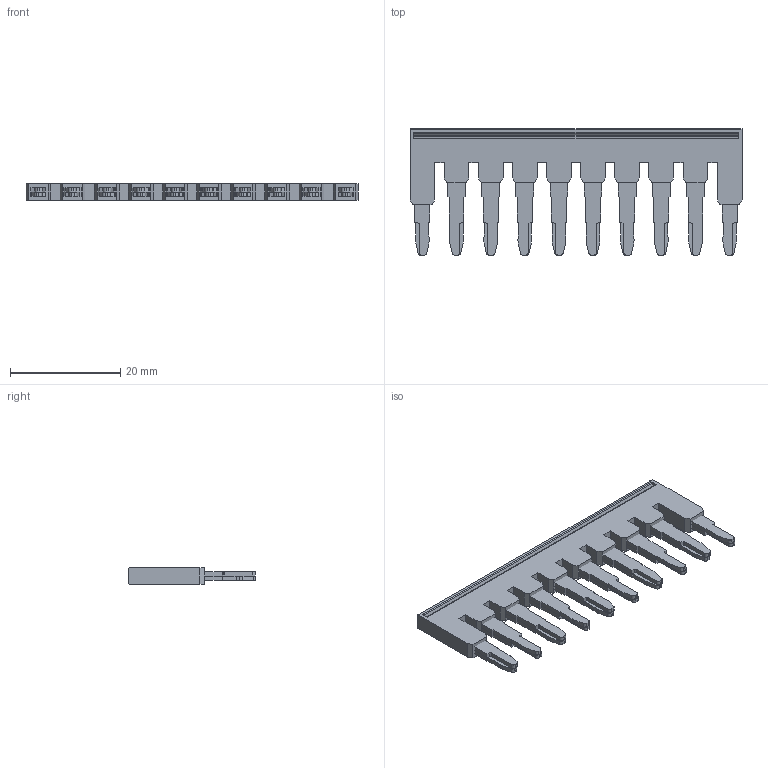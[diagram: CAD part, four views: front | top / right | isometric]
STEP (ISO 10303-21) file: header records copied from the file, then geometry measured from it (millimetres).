
FILE_DESCRIPTION(/* description */ (''),/* implementation_level */ '2;1');
FILE_NAME(/* name */ '815271_MTS_J104.stp',/* time_stamp */ '2019-03-15T11:01:53+08:00',/* author */ (''),/* organization */ (''),/* preprocessor_version */ 'ST-DEVELOPER v11',/* originating_system */ 'SIEMENS UGS NX 6.0',/* authorisation */ '');
FILE_SCHEMA (('AUTOMOTIVE_DESIGN { 1 0 10303 214 1 1 1 1 }'));
Length unit declared in the file: millimetre
Products named in the file (1): 815271_MTS_J104
Bounding box: 60.3 x 23 x 3 mm (x, y, z)
Volume: 2602.2 mm3; surface area: 5170.9 mm2
Topology: 3 solids, 3 shells, 517 faces, 1495 edges, 996 vertices
Faces by surface type: plane 370, cylinder 147
Full cylindrical faces by diameter (mm): 1.46 x10, 1.5 x10
Entity records: 16904 total; most frequent: CARTESIAN_POINT 2995, ORIENTED_EDGE 2950, DIRECTION 2803, EDGE_CURVE 1475, LINE 1179, VECTOR 1179, VERTEX_POINT 996, AXIS2_PLACEMENT_3D 812
